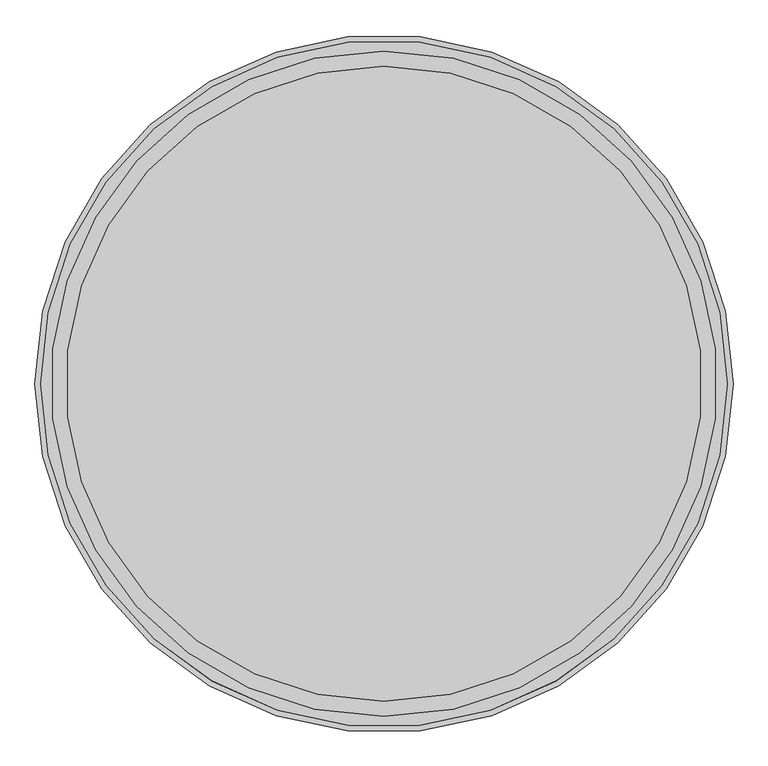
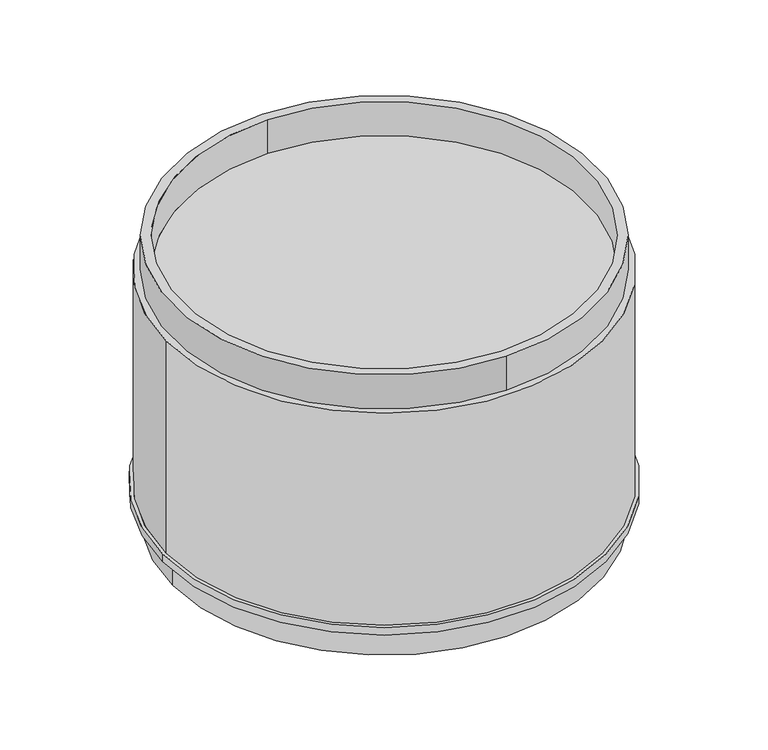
"""IFC4 building model written with IfcOpenShell, lengths in millimetres: valve geometry, Pipelife - Studnia PRO 1000 - Kineta studni ślepa : 1000 ślepa."""

import ifcopenshell
import ifcopenshell.guid

model = None  # the IFC model being written
_history = None  # IfcOwnerHistory: only IFC2X3 demands one
_inside = {}  # id of a spatial element -> (the spatial element, [elements in it])
_under = {}  # id of a project, library or spatial element -> (it, [spatial elements below it])
_declared = {}  # id of a project -> (the project, [libraries it declares])
_typed = {}  # id of a type object -> (the type object, [elements of that type])
_made_of = {}  # id of a material, layer set ... -> (it, [elements and type objects made of it])


def new_model(schema):
    """Start an empty IFC model of exactly this schema.

    Asked for "IFC4X3", IfcOpenShell would pick the latest addendum, in which some entities
    have other attributes; the version numbers below select the first issue.
    IFC2X3 requires an IfcOwnerHistory on every rooted entity: one is made here for all.
    """
    global model, _history
    if schema == "IFC4X3":
        model = ifcopenshell.file(schema_version=(4, 3, 0, 0))
    else:
        model = ifcopenshell.file(schema=schema)
    _inside.clear()
    _under.clear()
    _declared.clear()
    _typed.clear()
    _made_of.clear()
    _history = None
    if model.schema == "IFC2X3":
        org = make("IfcOrganization", Name="unknown")
        user = make(
            "IfcPersonAndOrganization",
            ThePerson=make("IfcPerson", FamilyName="unknown"),
            TheOrganization=org,
        )
        app = make(
            "IfcApplication",
            ApplicationDeveloper=org,
            Version="unknown",
            ApplicationFullName="unknown",
            ApplicationIdentifier="unknown",
        )
        _history = make(
            "IfcOwnerHistory",
            OwningUser=user,
            OwningApplication=app,
            ChangeAction="ADDED",
            CreationDate=0,
        )
    return model


def make(cls, **values):
    """One entity of the class cls with the attributes given. An attribute that is None is left unset."""
    return model.create_entity(
        cls, **{name: value for name, value in values.items() if value is not None}
    )


def rooted(cls, **values):
    """An entity with a GlobalId (a new one), such as an element, a storey or a relation."""
    return make(cls, GlobalId=ifcopenshell.guid.new(), OwnerHistory=_history, **values)


def si_unit(unit_type, name, prefix=None):
    """IfcSIUnit, for example si_unit("LENGTHUNIT", "METRE", prefix="MILLI")."""
    return make("IfcSIUnit", UnitType=unit_type, Prefix=prefix, Name=name)


def assignment(units):
    """IfcUnitAssignment: the units of a project."""
    return None if units is None else make("IfcUnitAssignment", Units=units)


def point(xyz):
    """IfcCartesianPoint."""
    return None if xyz is None else make("IfcCartesianPoint", Coordinates=xyz)


def direction(xyz):
    """IfcDirection."""
    return None if xyz is None else make("IfcDirection", DirectionRatios=xyz)


def frame(location, z_axis=None, x_axis=None):
    """IfcAxis2Placement3D, a coordinate frame: its origin and axes. An axis left out is left unset."""
    return make(
        "IfcAxis2Placement3D",
        Location=point(location),
        Axis=direction(z_axis),
        RefDirection=direction(x_axis),
    )


def frame_2d(location, x_axis=None):
    """IfcAxis2Placement2D, a coordinate frame in the plane: its origin and x axis."""
    return make(
        "IfcAxis2Placement2D", Location=point(location), RefDirection=direction(x_axis)
    )


def origin():
    """The frame at (0, 0, 0) with its axes left unset."""
    return frame((0.0, 0.0, 0.0))


def origin_2d():
    """The frame at (0, 0) in the plane with its x axis left unset."""
    return frame_2d((0.0, 0.0))


def place(relative_to, where):
    """IfcLocalPlacement: puts the frame where relative to a parent placement (None: the world)."""
    return make(
        "IfcLocalPlacement", PlacementRelTo=relative_to, RelativePlacement=where
    )


def context(
    kind, dimensions, precision=None, world=None, true_north=None, identifier=None
):
    """IfcGeometricRepresentationContext, for example the 3D "Model" context."""
    return make(
        "IfcGeometricRepresentationContext",
        ContextIdentifier=identifier,
        ContextType=kind,
        CoordinateSpaceDimension=dimensions,
        Precision=precision,
        WorldCoordinateSystem=world,
        TrueNorth=true_north,
    )


def project(units=None, contexts=None):
    """IfcProject with its units and contexts."""
    return rooted(
        "IfcProject",
        Name="project",
        RepresentationContexts=contexts,
        UnitsInContext=assignment(units),
    )


def spatial(cls, under=None, at=None, **own):
    """A site, building, storey or space (cls), placed at a placement, below another one or the project."""
    s = rooted(cls, ObjectPlacement=at, **own)
    if under is not None:
        _under.setdefault(under.id(), (under, []))[1].append(s)
    return s


def polyline(points):
    """IfcPolyline through the points."""
    return make("IfcPolyline", Points=[point(p) for p in points])


def circle_curve(where, radius):
    """IfcCircle in the frame where."""
    return make("IfcCircle", Position=where, Radius=radius)


def trimmed(basis, trim1, trim2, sense, master):
    """IfcTrimmedCurve: the piece of a basis curve between two trims."""
    return make(
        "IfcTrimmedCurve",
        BasisCurve=basis,
        Trim1=trim1,
        Trim2=trim2,
        SenseAgreement=sense,
        MasterRepresentation=master,
    )


def segment(curve, same_sense, transition):
    """IfcCompositeCurveSegment."""
    return make(
        "IfcCompositeCurveSegment",
        Transition=transition,
        SameSense=same_sense,
        ParentCurve=curve,
    )


def composite_curve(segments, self_intersect=None):
    """IfcCompositeCurve: segments joined end to end."""
    return make("IfcCompositeCurve", Segments=segments, SelfIntersect=self_intersect)


def outline(outer, holes=None, kind="AREA"):
    """IfcArbitraryClosedProfileDef: a profile drawn as a closed curve; with holes, ...WithVoids."""
    if holes is None:
        return make("IfcArbitraryClosedProfileDef", ProfileType=kind, OuterCurve=outer)
    return make(
        "IfcArbitraryProfileDefWithVoids",
        ProfileType=kind,
        OuterCurve=outer,
        InnerCurves=holes,
    )


def extrude(swept, where, along, depth):
    """IfcExtrudedAreaSolid: the profile swept, set in the frame where, extruded along a direction by depth."""
    return make(
        "IfcExtrudedAreaSolid",
        SweptArea=swept,
        Position=where,
        ExtrudedDirection=direction(along),
        Depth=depth,
    )


def shape(context_of_items, identifier, shape_type, items):
    """IfcShapeRepresentation: the items that make up one representation, for example the "Body"."""
    return make(
        "IfcShapeRepresentation",
        ContextOfItems=context_of_items,
        RepresentationIdentifier=identifier,
        RepresentationType=shape_type,
        Items=items,
    )


def source(mapping_origin, context_of_items, identifier, shape_type, items):
    """IfcRepresentationMap: a shape defined once, which mapped items show again and again."""
    return make(
        "IfcRepresentationMap",
        MappingOrigin=mapping_origin,
        MappedRepresentation=shape(context_of_items, identifier, shape_type, items),
    )


def transform(
    local_origin,
    x_axis=None,
    y_axis=None,
    z_axis=None,
    scale=None,
    scale2=None,
    scale3=None,
    uniform=True,
):
    """IfcCartesianTransformationOperator3D, or its non-uniform kind. x_axis, y_axis, z_axis: its Axis1, 2, 3."""
    if uniform:
        return make(
            "IfcCartesianTransformationOperator3D",
            Axis1=direction(x_axis),
            Axis2=direction(y_axis),
            LocalOrigin=point(local_origin),
            Scale=scale,
            Axis3=direction(z_axis),
        )
    return make(
        "IfcCartesianTransformationOperator3DnonUniform",
        Axis1=direction(x_axis),
        Axis2=direction(y_axis),
        LocalOrigin=point(local_origin),
        Scale=scale,
        Axis3=direction(z_axis),
        Scale2=scale2,
        Scale3=scale3,
    )


def mapped(mapping_source, mapping_target):
    """IfcMappedItem: shows the shape of a source again, moved by a transform."""
    return make(
        "IfcMappedItem", MappingSource=mapping_source, MappingTarget=mapping_target
    )


def made_of(thing, what):
    """Note that an element or type object is made of a material, layer set ...; save() writes the relation."""
    if what is not None:
        _made_of.setdefault(what.id(), (what, []))[1].append(thing)
    return thing


def element(
    cls,
    number,
    at=None,
    inside=None,
    cuts=None,
    type_object=None,
    material=None,
    context=None,
    identifier="Body",
    shape_type=None,
    held_by="IfcProductDefinitionShape",
    body=None,
    shapes=None,
    **own,
):
    """One element of the class cls, such as IfcWall. Its Tag is "e" and its number.

    at: its placement. inside: the storey or other place that contains it. cuts: it is an
    opening in that element (IfcRelVoidsElement). A single representation is given by context,
    identifier, shape_type and body (its items); several are given by shapes. held_by: the class
    of the entity that holds the representations. save() writes the other relations.
    """
    e = rooted(cls, Tag="e%d" % number, ObjectPlacement=at, **own)
    if body is not None:
        shapes = [shape(context, identifier, shape_type, body)]
    if shapes is not None:
        e.Representation = make(held_by, Representations=shapes)
    if inside is not None:
        _inside.setdefault(inside.id(), (inside, []))[1].append(e)
    if cuts is not None:
        rooted(
            "IfcRelVoidsElement", RelatingBuildingElement=cuts, RelatedOpeningElement=e
        )
    if type_object is not None:
        _typed.setdefault(type_object.id(), (type_object, []))[1].append(e)
    return made_of(e, material)


def aggregate(whole, parts):
    """IfcRelAggregates: a whole, such as a stair, and the parts it consists of."""
    return rooted("IfcRelAggregates", RelatingObject=whole, RelatedObjects=parts)


def save(model, path):
    """Write the relations noted so far, then the file.

    IfcRelAggregates (storeys below a building ...), IfcRelContainedInSpatialStructure (elements
    in a storey), IfcRelDefinesByType, IfcRelAssociatesMaterial and IfcRelDeclares: one each for
    every whole, place, type object, material and project.
    """
    for whole, parts in _under.values():
        aggregate(whole, parts)
    for where, things in _inside.values():
        rooted(
            "IfcRelContainedInSpatialStructure",
            RelatedElements=things,
            RelatingStructure=where,
        )
    for kind, things in _typed.values():
        rooted("IfcRelDefinesByType", RelatedObjects=things, RelatingType=kind)
    for what, things in _made_of.values():
        rooted("IfcRelAssociatesMaterial", RelatedObjects=things, RelatingMaterial=what)
    for by, libraries in _declared.values():
        rooted("IfcRelDeclares", RelatingContext=by, RelatedDefinitions=libraries)
    model.write(path)


def plane_surface(at):
    """IfcPlane: the flat surface through the origin of the frame at, square to its z axis."""
    return make("IfcPlane", Position=at)


def cylinder_surface(at, radius):
    """IfcCylindricalSurface: all points at the distance radius from the z axis of the frame at."""
    return make("IfcCylindricalSurface", Position=at, Radius=radius)


def revolved_surface(curve, axis_point, axis_direction):
    """IfcSurfaceOfRevolution: the curve turned about the line through axis_point along axis_direction."""
    return make(
        "IfcSurfaceOfRevolution",
        SweptCurve=make("IfcArbitraryOpenProfileDef", ProfileType="CURVE", Curve=curve),
        AxisPosition=make("IfcAxis1Placement", Location=point(axis_point), Axis=direction(axis_direction)),
    )


def advanced_brep(points, edges, surfaces, faces):
    """IfcAdvancedBrep: a solid bounded by faces that lie on surfaces and meet in shared edges.

    An edge is (start, end): straight between two places in points (the first is 0);
    or (start, end, curve); or (start, end, curve, False) where it runs against its curve.
    A face is (place in surfaces, loops), or (place, loops, False) where it looks against
    its surface's normal. A loop lists edges by number (the first is 1), with a minus sign
    where the edge is run from its end to its start. The first loop is the outer one.
    """
    corners = [point(p) for p in points]
    vertices = [make("IfcVertexPoint", VertexGeometry=c) for c in corners]
    made = []
    for start, end, *more in edges:
        made.append(
            make(
                "IfcEdgeCurve",
                EdgeStart=vertices[start],
                EdgeEnd=vertices[end],
                EdgeGeometry=more[0] if more else make("IfcPolyline", Points=[corners[start], corners[end]]),
                SameSense=more[1] if len(more) > 1 else True,
            )
        )
    hull = []
    for where, loops, *sense in faces:
        bounds = []
        for j, loop in enumerate(loops):
            ring = [make("IfcOrientedEdge", EdgeElement=made[abs(k) - 1], Orientation=k > 0) for k in loop]
            bounds.append(
                make(
                    "IfcFaceOuterBound" if j == 0 else "IfcFaceBound",
                    Bound=make("IfcEdgeLoop", EdgeList=ring),
                    Orientation=True,
                )
            )
        hull.append(make("IfcAdvancedFace", Bounds=bounds, FaceSurface=surfaces[where], SameSense=sense[0] if sense else True))
    return make("IfcAdvancedBrep", Outer=make("IfcClosedShell", CfsFaces=hull))


def valve_d2fa7df9(model_context):
    return source(origin(), model_context, "Body", "SolidModel", [
        advanced_brep(
        [(558.0, 0.0, -301.5), (-558.0, 0.0, -301.5), (558.0, 0.0, -281.5), (-558.0, 0.0, -281.5), (549.0, 0.0, -281.5), (-549.0, 0.0, -281.5), (549.0, 0.0, 282.5), (-549.0, 0.0, 282.5), (0.0, -532.0, 282.5), (0.0, 532.0, 282.5), (0.0, -508.0, 282.5), (0.0, 508.0, 282.5), (0.0, 532.0, 372.5), (0.0, -532.0, 372.5), (0.0, 508.0, 372.5), (0.0, -508.0, 372.5)],
        [
            (0, 1, circle_curve(frame((0.0, 0.0, -301.5), z_axis=(0.0, 0.0, -1.0), x_axis=(-1.0, 0.0, 0.0)), 558.0)),
            (1, 0, circle_curve(frame((0.0, 0.0, -301.5), z_axis=(0.0, 0.0, -1.0), x_axis=(-1.0, 0.0, 0.0)), 558.0)),
            (2, 3, circle_curve(frame((0.0, 0.0, -281.5), z_axis=(0.0, 0.0, 1.0), x_axis=(-1.0, 0.0, 0.0)), 558.0)),
            (3, 2, circle_curve(frame((0.0, 0.0, -281.5), z_axis=(0.0, 0.0, 1.0), x_axis=(-1.0, 0.0, 0.0)), 558.0)),
            (4, 5, circle_curve(frame((0.0, 0.0, -281.5), z_axis=(0.0, 0.0, -1.0), x_axis=(-1.0, 0.0, 0.0)), 549.0)),
            (5, 4, circle_curve(frame((0.0, 0.0, -281.5), z_axis=(0.0, 0.0, -1.0), x_axis=(-1.0, 0.0, 0.0)), 549.0)),
            (0, 2),
            (3, 1),
            (6, 7, circle_curve(frame((0.0, 0.0, 282.5), z_axis=(0.0, 0.0, 1.0), x_axis=(-1.0, 0.0, 0.0)), 549.0)),
            (7, 6, circle_curve(frame((0.0, 0.0, 282.5), z_axis=(0.0, 0.0, 1.0), x_axis=(-1.0, 0.0, 0.0)), 549.0)),
            (8, 9, circle_curve(frame((0.0, 0.0, 282.5), z_axis=(0.0, 0.0, -1.0), x_axis=(0.0, -1.0, 0.0)), 532.0)),
            (9, 8, circle_curve(frame((0.0, 0.0, 282.5), z_axis=(0.0, 0.0, -1.0), x_axis=(0.0, -1.0, 0.0)), 532.0)),
            (10, 11, circle_curve(frame((0.0, 0.0, 282.5), z_axis=(0.0, 0.0, 1.0), x_axis=(0.0, -1.0, 0.0)), 508.0)),
            (11, 10, circle_curve(frame((0.0, 0.0, 282.5), z_axis=(0.0, 0.0, 1.0), x_axis=(0.0, -1.0, 0.0)), 508.0)),
            (7, 5),
            (4, 6),
            (12, 13, circle_curve(frame((0.0, 0.0, 372.5), z_axis=(0.0, 0.0, 1.0), x_axis=(0.0, -1.0, 0.0)), 532.0)),
            (13, 12, circle_curve(frame((0.0, 0.0, 372.5), z_axis=(0.0, 0.0, 1.0), x_axis=(0.0, -1.0, 0.0)), 532.0)),
            (14, 15, circle_curve(frame((0.0, 0.0, 372.5), z_axis=(0.0, 0.0, -1.0), x_axis=(0.0, -1.0, 0.0)), 508.0)),
            (15, 14, circle_curve(frame((0.0, 0.0, 372.5), z_axis=(0.0, 0.0, -1.0), x_axis=(0.0, -1.0, 0.0)), 508.0)),
            (12, 9),
            (8, 13),
            (14, 11),
            (10, 15),
        ],
        [
            plane_surface(frame((0.0, 0.0, -301.5), z_axis=(0.0, 0.0, -1.0), x_axis=(0.0, -1.0, 0.0))),
            plane_surface(frame((0.0, 0.0, -281.5), z_axis=(0.0, 0.0, 1.0), x_axis=(0.0, -1.0, 0.0))),
            cylinder_surface(frame((0.0, 0.0, -301.5), z_axis=(0.0, 0.0, -1.0), x_axis=(-1.0, 0.0, 0.0)), 558.0),
            plane_surface(frame((0.0, 0.0, 282.5), z_axis=(0.0, 0.0, 1.0), x_axis=(0.0, -1.0, 0.0))),
            cylinder_surface(frame((0.0, 0.0, -281.5), z_axis=(0.0, 0.0, -1.0), x_axis=(-1.0, 0.0, 0.0)), 549.0),
            plane_surface(frame((0.0, 0.0, 372.5), z_axis=(0.0, 0.0, 1.0), x_axis=(0.0, -1.0, 0.0))),
            cylinder_surface(frame((0.0, 0.0, 372.5), z_axis=(0.0, 0.0, 1.0), x_axis=(0.0, -1.0, 0.0)), 532.0),
            revolved_surface(polyline([(0.0, -508.0, 282.5), (0.0, -508.0, 372.5)]), (0.0, 0.0, 372.5), (0.0, 0.0, -1.0)),
        ],
        [
            (0, [[1, 2]]),
            (1, [[3, 4], [5, 6]]),
            (2, [[-1, 7, -4, 8]]),
            (2, [[-2, -8, -3, -7]]),
            (3, [[9, 10], [11, 12]]),
            (3, [[13, 14]]),
            (4, [[-10, 15, -5, 16]]),
            (4, [[-9, -16, -6, -15]]),
            (5, [[17, 18], [19, 20]]),
            (6, [[-17, 21, -11, 22]]),
            (6, [[-18, -22, -12, -21]]),
            (7, [[-19, 23, -13, 24]]),
            (7, [[-20, -24, -14, -23]]),
        ],
    ),
        extrude(outline(composite_curve([segment(trimmed(circle_curve(origin_2d(), 533.0), [point((533.0, 0.0))], [point((-533.0, 0.0))], False, "CARTESIAN"), True, "CONTINUOUS"), segment(trimmed(circle_curve(origin_2d(), 533.0), [point((-533.0, 0.0))], [point((533.0, 0.0))], False, "CARTESIAN"), True, "CONTINUOUS")], self_intersect=False)), frame((0.0, 0.0, -372.5), z_axis=(0.0, 0.0, 1.0), x_axis=(1.0, 0.0, 0.0)), (0.0, 0.0, 1.0), 71.0),
    ])


if __name__ == "__main__":
    model = new_model("IFC4")
    model_context = context("Model", 3, world=origin())
    ifc_project = project(units=[si_unit("LENGTHUNIT", "METRE", prefix="MILLI")], contexts=[model_context])
    site = spatial("IfcSite", under=ifc_project)
    building = spatial("IfcBuilding", under=site)
    placement = place(None, origin())
    valve_shape = valve_d2fa7df9(model_context)
    element("IfcValve", 1, ObjectType="Pipelife - Studnia PRO 1000 - Kineta studni ślepa : 1000 ślepa", at=placement, inside=building, context=model_context, shape_type="MappedRepresentation", body=[
        mapped(valve_shape, transform((0.0, 0.0, 0.0), x_axis=(1.0, 0.0, 0.0), y_axis=(0.0, 1.0, 0.0), z_axis=(0.0, 0.0, 1.0))),
    ])
    save(model, "model.ifc")
